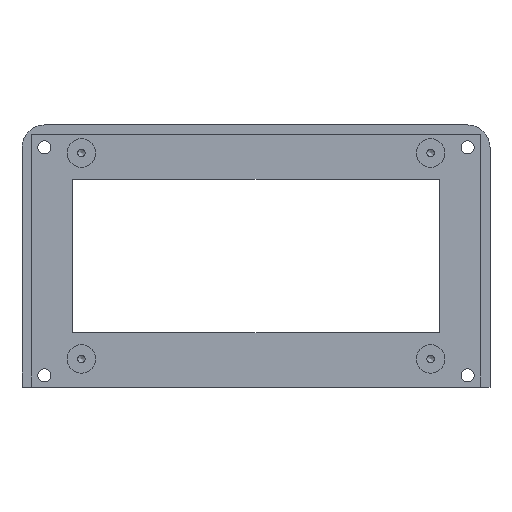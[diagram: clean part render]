
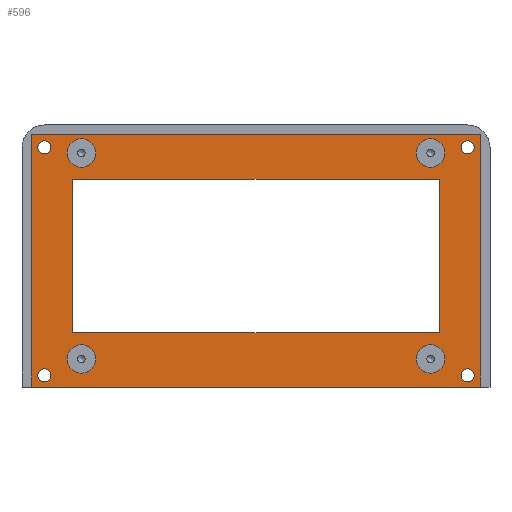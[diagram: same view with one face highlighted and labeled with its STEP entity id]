
A CAD part, top view. The second image highlights one B-rep face of the part: STEP entity #596.
In plain terms, the highlighted planar face has unit normal (0, 0, 1).
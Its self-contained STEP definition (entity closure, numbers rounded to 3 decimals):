
#40=LINE('',#940,#78);
#43=LINE('',#946,#81);
#46=LINE('',#952,#84);
#49=LINE('',#956,#87);
#64=LINE('',#997,#102);
#67=LINE('',#1003,#105);
#70=LINE('',#1009,#108);
#72=LINE('',#1012,#110);
#78=VECTOR('',#782,10.);
#81=VECTOR('',#787,10.);
#84=VECTOR('',#792,10.);
#87=VECTOR('',#797,10.);
#102=VECTOR('',#832,10.);
#105=VECTOR('',#837,10.);
#108=VECTOR('',#842,10.);
#110=VECTOR('',#846,10.);
#128=PLANE('',#680);
#157=FACE_BOUND('',#256,.T.);
#158=FACE_BOUND('',#257,.T.);
#159=FACE_BOUND('',#258,.T.);
#160=FACE_BOUND('',#259,.T.);
#161=FACE_BOUND('',#260,.T.);
#162=FACE_BOUND('',#261,.T.);
#163=FACE_BOUND('',#262,.T.);
#164=FACE_BOUND('',#263,.T.);
#165=FACE_BOUND('',#264,.T.);
#198=FACE_OUTER_BOUND('',#255,.T.);
#255=EDGE_LOOP('',(#512,#513,#514,#515));
#256=EDGE_LOOP('',(#516));
#257=EDGE_LOOP('',(#517));
#258=EDGE_LOOP('',(#518));
#259=EDGE_LOOP('',(#519));
#260=EDGE_LOOP('',(#520));
#261=EDGE_LOOP('',(#521));
#262=EDGE_LOOP('',(#522));
#263=EDGE_LOOP('',(#523));
#264=EDGE_LOOP('',(#524,#525,#526,#527));
#269=CIRCLE('',#622,1.75);
#271=CIRCLE('',#625,1.75);
#273=CIRCLE('',#628,1.75);
#275=CIRCLE('',#631,1.75);
#285=CIRCLE('',#650,3.8);
#287=CIRCLE('',#654,3.8);
#289=CIRCLE('',#658,3.8);
#291=CIRCLE('',#662,3.8);
#301=VERTEX_POINT('',#868);
#303=VERTEX_POINT('',#873);
#305=VERTEX_POINT('',#878);
#307=VERTEX_POINT('',#883);
#317=VERTEX_POINT('',#912);
#319=VERTEX_POINT('',#918);
#321=VERTEX_POINT('',#924);
#323=VERTEX_POINT('',#930);
#326=VERTEX_POINT('',#937);
#327=VERTEX_POINT('',#939);
#329=VERTEX_POINT('',#945);
#331=VERTEX_POINT('',#951);
#346=VERTEX_POINT('',#994);
#347=VERTEX_POINT('',#996);
#349=VERTEX_POINT('',#1002);
#351=VERTEX_POINT('',#1008);
#353=EDGE_CURVE('',#301,#301,#269,.T.);
#355=EDGE_CURVE('',#303,#303,#271,.T.);
#357=EDGE_CURVE('',#305,#305,#273,.T.);
#359=EDGE_CURVE('',#307,#307,#275,.T.);
#369=EDGE_CURVE('',#317,#317,#285,.T.);
#371=EDGE_CURVE('',#319,#319,#287,.T.);
#373=EDGE_CURVE('',#321,#321,#289,.T.);
#375=EDGE_CURVE('',#323,#323,#291,.T.);
#378=EDGE_CURVE('',#327,#326,#40,.T.);
#381=EDGE_CURVE('',#329,#327,#43,.T.);
#384=EDGE_CURVE('',#331,#329,#46,.T.);
#387=EDGE_CURVE('',#326,#331,#49,.T.);
#406=EDGE_CURVE('',#347,#346,#64,.T.);
#409=EDGE_CURVE('',#349,#347,#67,.T.);
#412=EDGE_CURVE('',#351,#349,#70,.T.);
#414=EDGE_CURVE('',#346,#351,#72,.T.);
#512=ORIENTED_EDGE('',*,*,#414,.T.);
#513=ORIENTED_EDGE('',*,*,#412,.T.);
#514=ORIENTED_EDGE('',*,*,#409,.T.);
#515=ORIENTED_EDGE('',*,*,#406,.T.);
#516=ORIENTED_EDGE('',*,*,#353,.T.);
#517=ORIENTED_EDGE('',*,*,#355,.T.);
#518=ORIENTED_EDGE('',*,*,#357,.T.);
#519=ORIENTED_EDGE('',*,*,#359,.T.);
#520=ORIENTED_EDGE('',*,*,#369,.T.);
#521=ORIENTED_EDGE('',*,*,#371,.T.);
#522=ORIENTED_EDGE('',*,*,#373,.T.);
#523=ORIENTED_EDGE('',*,*,#375,.T.);
#524=ORIENTED_EDGE('',*,*,#384,.T.);
#525=ORIENTED_EDGE('',*,*,#381,.T.);
#526=ORIENTED_EDGE('',*,*,#378,.T.);
#527=ORIENTED_EDGE('',*,*,#387,.T.);
#596=ADVANCED_FACE('',(#198,#157,#158,#159,#160,#161,#162,#163,#164,#165),
#128,.T.);
#622=AXIS2_PLACEMENT_3D('',#869,#694,#695);
#625=AXIS2_PLACEMENT_3D('',#874,#700,#701);
#628=AXIS2_PLACEMENT_3D('',#879,#706,#707);
#631=AXIS2_PLACEMENT_3D('',#884,#712,#713);
#650=AXIS2_PLACEMENT_3D('',#913,#750,#751);
#654=AXIS2_PLACEMENT_3D('',#919,#758,#759);
#658=AXIS2_PLACEMENT_3D('',#925,#766,#767);
#662=AXIS2_PLACEMENT_3D('',#931,#774,#775);
#680=AXIS2_PLACEMENT_3D('',#1011,#844,#845);
#694=DIRECTION('center_axis',(0.,0.,-1.));
#695=DIRECTION('ref_axis',(-1.,0.,0.));
#700=DIRECTION('center_axis',(0.,0.,-1.));
#701=DIRECTION('ref_axis',(-1.,0.,0.));
#706=DIRECTION('center_axis',(0.,0.,-1.));
#707=DIRECTION('ref_axis',(-1.,0.,0.));
#712=DIRECTION('center_axis',(0.,0.,-1.));
#713=DIRECTION('ref_axis',(-1.,0.,0.));
#750=DIRECTION('center_axis',(0.,0.,-1.));
#751=DIRECTION('ref_axis',(-1.,0.,0.));
#758=DIRECTION('center_axis',(0.,0.,-1.));
#759=DIRECTION('ref_axis',(-1.,0.,0.));
#766=DIRECTION('center_axis',(0.,0.,-1.));
#767=DIRECTION('ref_axis',(-1.,0.,0.));
#774=DIRECTION('center_axis',(0.,0.,-1.));
#775=DIRECTION('ref_axis',(-1.,0.,0.));
#782=DIRECTION('',(0.,-1.,0.));
#787=DIRECTION('',(1.,0.,0.));
#792=DIRECTION('',(0.,1.,0.));
#797=DIRECTION('',(-1.,0.,0.));
#832=DIRECTION('',(0.,-1.,0.));
#837=DIRECTION('',(-1.,0.,0.));
#842=DIRECTION('',(0.,1.,0.));
#844=DIRECTION('center_axis',(0.,0.,1.));
#845=DIRECTION('ref_axis',(1.,0.,0.));
#846=DIRECTION('',(1.,0.,0.));
#868=CARTESIAN_POINT('',(7.735,3.115,2.));
#869=CARTESIAN_POINT('Origin',(5.985,3.115,2.));
#873=CARTESIAN_POINT('',(7.735,64.015,2.));
#874=CARTESIAN_POINT('Origin',(5.985,64.015,2.));
#878=CARTESIAN_POINT('',(120.765,64.015,2.));
#879=CARTESIAN_POINT('Origin',(119.015,64.015,2.));
#883=CARTESIAN_POINT('',(120.765,3.115,2.));
#884=CARTESIAN_POINT('Origin',(119.015,3.115,2.));
#912=CARTESIAN_POINT('',(112.95,7.5,2.));
#913=CARTESIAN_POINT('Origin',(109.15,7.5,2.));
#918=CARTESIAN_POINT('',(19.65,7.5,2.));
#919=CARTESIAN_POINT('Origin',(15.85,7.5,2.));
#924=CARTESIAN_POINT('',(19.65,62.5,2.));
#925=CARTESIAN_POINT('Origin',(15.85,62.5,2.));
#930=CARTESIAN_POINT('',(112.95,62.5,2.));
#931=CARTESIAN_POINT('Origin',(109.15,62.5,2.));
#937=CARTESIAN_POINT('',(111.5,14.5,2.));
#939=CARTESIAN_POINT('',(111.5,55.5,2.));
#940=CARTESIAN_POINT('',(111.5,44.625,2.));
#945=CARTESIAN_POINT('',(13.5,55.5,2.));
#946=CARTESIAN_POINT('',(38.,55.5,2.));
#951=CARTESIAN_POINT('',(13.5,14.5,2.));
#952=CARTESIAN_POINT('',(13.5,24.125,2.));
#956=CARTESIAN_POINT('',(87.,14.5,2.));
#994=CARTESIAN_POINT('',(2.5,0.,2.));
#996=CARTESIAN_POINT('',(2.5,67.5,2.));
#997=CARTESIAN_POINT('',(2.5,67.5,2.));
#1002=CARTESIAN_POINT('',(122.5,67.5,2.));
#1003=CARTESIAN_POINT('',(122.5,67.5,2.));
#1008=CARTESIAN_POINT('',(122.5,0.,2.));
#1009=CARTESIAN_POINT('',(122.5,0.,2.));
#1011=CARTESIAN_POINT('Origin',(62.5,33.75,2.));
#1012=CARTESIAN_POINT('',(2.5,0.,2.));
